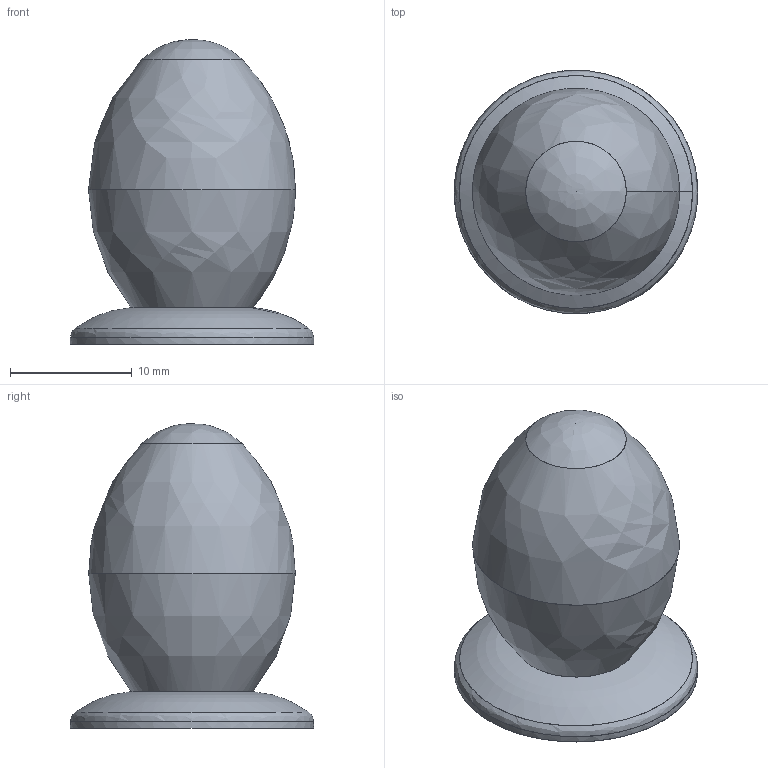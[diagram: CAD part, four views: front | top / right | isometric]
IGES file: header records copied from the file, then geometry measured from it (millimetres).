
Start section: C
Global section: file name: 8015-25.igs; native system: By Siemens PLM Incorporated; preprocessor: XPlus GENERIC/IGES 16.0.42; author: Author; organization: Title; date: 20231128.142710; units: millimetre
Bounding box: 20 x 19.98 x 25 mm (x, y, z)
Surface area: 3379.7 mm2 (no closed solid volume)
Topology: 0 solids, 0 shells, 34 faces, 175 edges, 174 vertices
Faces by surface type: bspline 34
